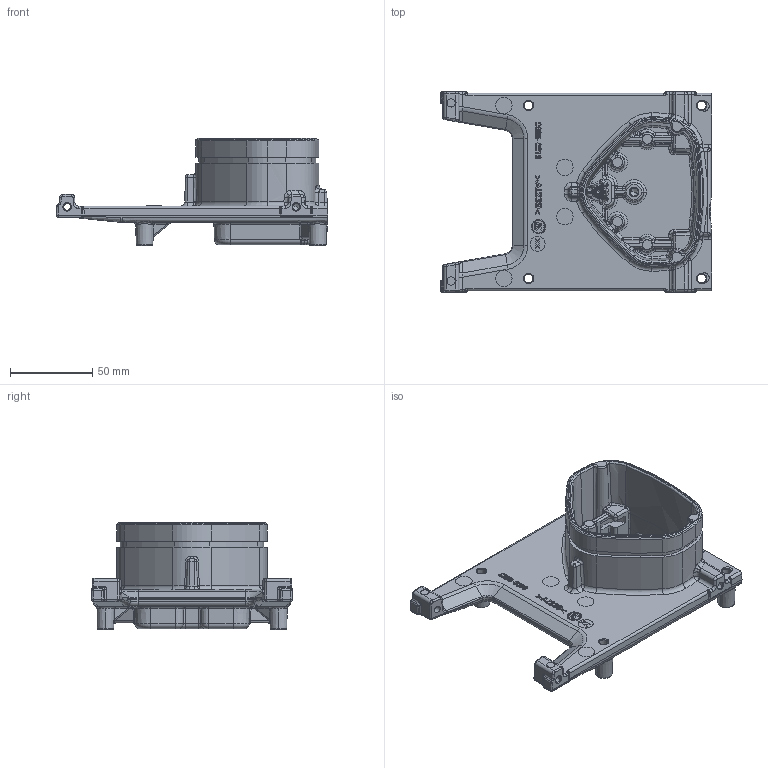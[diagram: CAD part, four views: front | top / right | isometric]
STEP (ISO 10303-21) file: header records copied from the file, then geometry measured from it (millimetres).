
FILE_DESCRIPTION(('CATIA V5 STEP 214','CAx-IF Rec.Pracs.--- Model Styling and Organization---1.4--- 2014-01-23'),'2;1');
FILE_NAME('C:\Temp\ddxv7\595602\10083160-1-0003A.stp','2023-08-18T09:15:17+00:00',('Leopold Kostal'),('Kostal GmbH'),'CATIA Version 5-6 Release 2016 SP6 HF31','CATIA V5 STEP AP214','none');
FILE_SCHEMA(('AUTOMOTIVE_DESIGN { 1 0 10303 214 1 1 1 1 }'));
Length unit declared in the file: millimetre
Products named in the file (1): 10083160-1-0003A
Bounding box: 164.5 x 121.74 x 65 mm (x, y, z)
Volume: 220382.6 mm3; surface area: 74696.2 mm2
Topology: 1 solids, 1 shells, 1723 faces, 4285 edges, 2547 vertices
Faces by surface type: plane 422, bspline 370, cylinder 348, extrusion 284, torus 163, cone 98, sphere 38
Entity records: 74082 total; most frequent: CARTESIAN_POINT 40266, ORIENTED_EDGE 8406, DIRECTION 4218, EDGE_CURVE 4203, VERTEX_POINT 2547, B_SPLINE_CURVE_WITH_KNOTS 2073, EDGE_LOOP 1804, AXIS2_PLACEMENT_3D 1735
